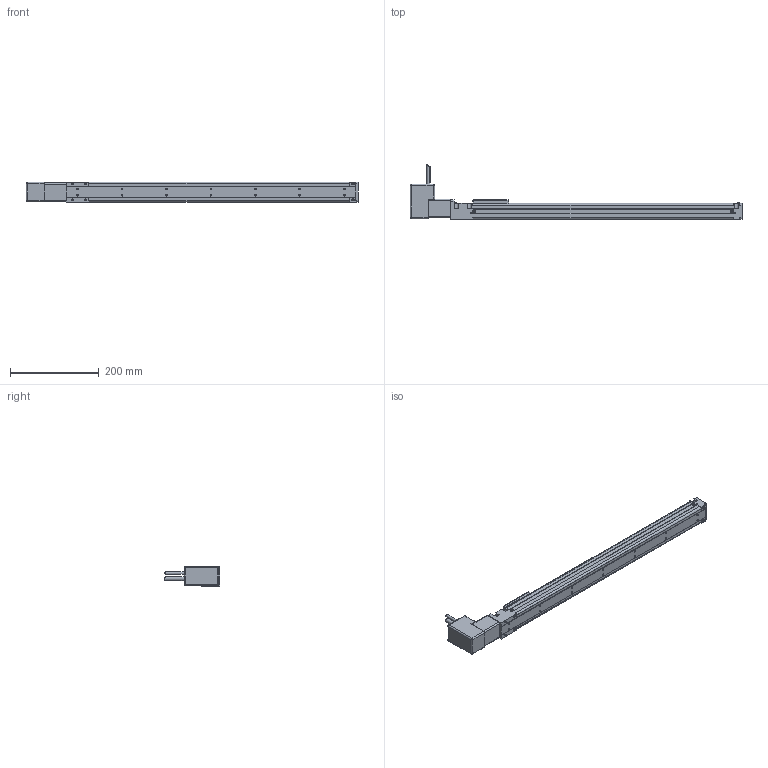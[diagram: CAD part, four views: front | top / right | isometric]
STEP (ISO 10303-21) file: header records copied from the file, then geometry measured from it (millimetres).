
FILE_DESCRIPTION(/* description */ ('Alibre Inc.'),/* implementation_level */ '2;1');
FILE_NAME(/* name */ 'export0',/* time_stamp */ '2010-03-31T15:01:22-04:00',/* author */ (''),/* organization */ (''),/* preprocessor_version */ 'ST-DEVELOPER v10',/* originating_system */ 'Alibre',/* authorisation */ '');
FILE_SCHEMA (('CONFIG_CONTROL_DESIGN'));
Length unit declared in the file: millimetre
Products named in the file (4): 1; 2; ID_1
Bounding box: 747 x 124.17 x 45 mm (x, y, z)
Volume: 566475.6 mm3; surface area: 274399.7 mm2
Topology: 3 solids, 3 shells, 733 faces, 1899 edges, 1172 vertices
Faces by surface type: plane 430, cylinder 167, cone 122, torus 8, sphere 6
Full cylindrical faces by diameter (mm): 2.459 x3, 2.5 x1, 5 x1, 5.6 x1, 8.5 x1, 22 x1
Entity records: 21910 total; most frequent: CARTESIAN_POINT 3918, ORIENTED_EDGE 3708, DIRECTION 3329, EDGE_CURVE 1854, VECTOR 1365, LINE 1365, AXIS2_PLACEMENT_3D 1200, VERTEX_POINT 1169
